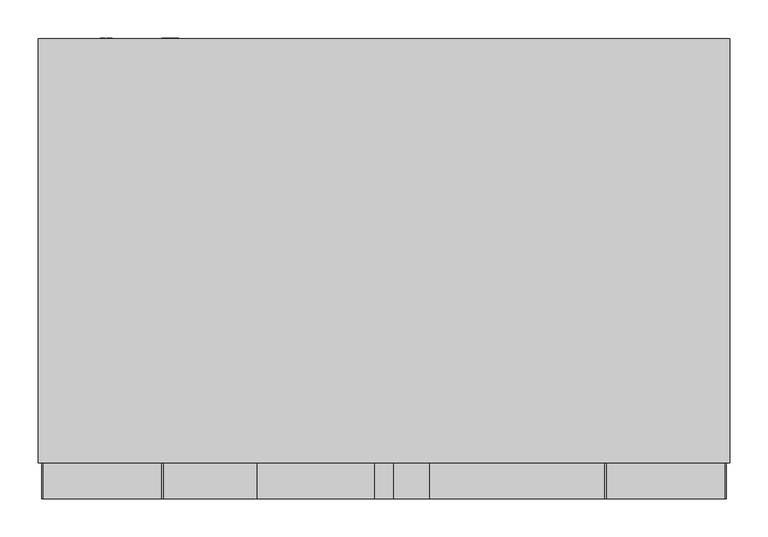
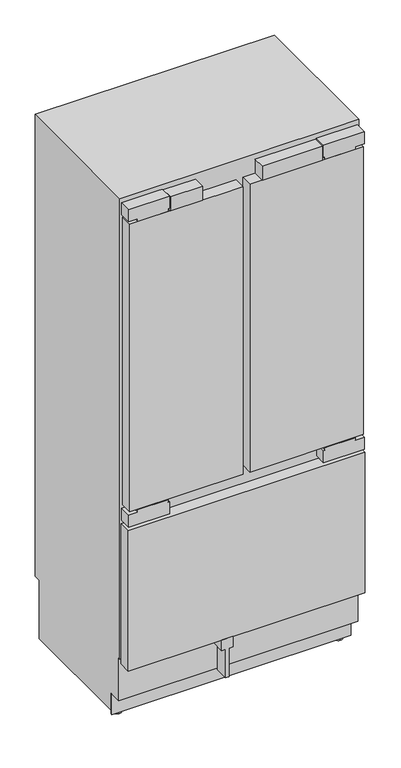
"""IFC4 building model written with IfcOpenShell, lengths in millimetres: proxy geometry, 11288020_OER_KF2981Vi : 38298101_OER_11288020_KF2981Vi."""

import ifcopenshell
import ifcopenshell.guid

model = None  # the IFC model being written
_history = None  # IfcOwnerHistory: only IFC2X3 demands one
_inside = {}  # id of a spatial element -> (the spatial element, [elements in it])
_under = {}  # id of a project, library or spatial element -> (it, [spatial elements below it])
_declared = {}  # id of a project -> (the project, [libraries it declares])
_typed = {}  # id of a type object -> (the type object, [elements of that type])
_made_of = {}  # id of a material, layer set ... -> (it, [elements and type objects made of it])


def new_model(schema):
    """Start an empty IFC model of exactly this schema.

    Asked for "IFC4X3", IfcOpenShell would pick the latest addendum, in which some entities
    have other attributes; the version numbers below select the first issue.
    IFC2X3 requires an IfcOwnerHistory on every rooted entity: one is made here for all.
    """
    global model, _history
    if schema == "IFC4X3":
        model = ifcopenshell.file(schema_version=(4, 3, 0, 0))
    else:
        model = ifcopenshell.file(schema=schema)
    _inside.clear()
    _under.clear()
    _declared.clear()
    _typed.clear()
    _made_of.clear()
    _history = None
    if model.schema == "IFC2X3":
        org = make("IfcOrganization", Name="unknown")
        user = make(
            "IfcPersonAndOrganization",
            ThePerson=make("IfcPerson", FamilyName="unknown"),
            TheOrganization=org,
        )
        app = make(
            "IfcApplication",
            ApplicationDeveloper=org,
            Version="unknown",
            ApplicationFullName="unknown",
            ApplicationIdentifier="unknown",
        )
        _history = make(
            "IfcOwnerHistory",
            OwningUser=user,
            OwningApplication=app,
            ChangeAction="ADDED",
            CreationDate=0,
        )
    return model


def make(cls, **values):
    """One entity of the class cls with the attributes given. An attribute that is None is left unset."""
    return model.create_entity(
        cls, **{name: value for name, value in values.items() if value is not None}
    )


def rooted(cls, **values):
    """An entity with a GlobalId (a new one), such as an element, a storey or a relation."""
    return make(cls, GlobalId=ifcopenshell.guid.new(), OwnerHistory=_history, **values)


def si_unit(unit_type, name, prefix=None):
    """IfcSIUnit, for example si_unit("LENGTHUNIT", "METRE", prefix="MILLI")."""
    return make("IfcSIUnit", UnitType=unit_type, Prefix=prefix, Name=name)


def assignment(units):
    """IfcUnitAssignment: the units of a project."""
    return None if units is None else make("IfcUnitAssignment", Units=units)


def point(xyz):
    """IfcCartesianPoint."""
    return None if xyz is None else make("IfcCartesianPoint", Coordinates=xyz)


def direction(xyz):
    """IfcDirection."""
    return None if xyz is None else make("IfcDirection", DirectionRatios=xyz)


def frame(location, z_axis=None, x_axis=None):
    """IfcAxis2Placement3D, a coordinate frame: its origin and axes. An axis left out is left unset."""
    return make(
        "IfcAxis2Placement3D",
        Location=point(location),
        Axis=direction(z_axis),
        RefDirection=direction(x_axis),
    )


def frame_2d(location, x_axis=None):
    """IfcAxis2Placement2D, a coordinate frame in the plane: its origin and x axis."""
    return make(
        "IfcAxis2Placement2D", Location=point(location), RefDirection=direction(x_axis)
    )


def origin():
    """The frame at (0, 0, 0) with its axes left unset."""
    return frame((0.0, 0.0, 0.0))


def place(relative_to, where):
    """IfcLocalPlacement: puts the frame where relative to a parent placement (None: the world)."""
    return make(
        "IfcLocalPlacement", PlacementRelTo=relative_to, RelativePlacement=where
    )


def context(
    kind, dimensions, precision=None, world=None, true_north=None, identifier=None
):
    """IfcGeometricRepresentationContext, for example the 3D "Model" context."""
    return make(
        "IfcGeometricRepresentationContext",
        ContextIdentifier=identifier,
        ContextType=kind,
        CoordinateSpaceDimension=dimensions,
        Precision=precision,
        WorldCoordinateSystem=world,
        TrueNorth=true_north,
    )


def project(units=None, contexts=None):
    """IfcProject with its units and contexts."""
    return rooted(
        "IfcProject",
        Name="project",
        RepresentationContexts=contexts,
        UnitsInContext=assignment(units),
    )


def spatial(cls, under=None, at=None, **own):
    """A site, building, storey or space (cls), placed at a placement, below another one or the project."""
    s = rooted(cls, ObjectPlacement=at, **own)
    if under is not None:
        _under.setdefault(under.id(), (under, []))[1].append(s)
    return s


def polyline(points):
    """IfcPolyline through the points."""
    return make("IfcPolyline", Points=[point(p) for p in points])


def circle_curve(where, radius):
    """IfcCircle in the frame where."""
    return make("IfcCircle", Position=where, Radius=radius)


def trimmed(basis, trim1, trim2, sense, master):
    """IfcTrimmedCurve: the piece of a basis curve between two trims."""
    return make(
        "IfcTrimmedCurve",
        BasisCurve=basis,
        Trim1=trim1,
        Trim2=trim2,
        SenseAgreement=sense,
        MasterRepresentation=master,
    )


def segment(curve, same_sense, transition):
    """IfcCompositeCurveSegment."""
    return make(
        "IfcCompositeCurveSegment",
        Transition=transition,
        SameSense=same_sense,
        ParentCurve=curve,
    )


def composite_curve(segments, self_intersect=None):
    """IfcCompositeCurve: segments joined end to end."""
    return make("IfcCompositeCurve", Segments=segments, SelfIntersect=self_intersect)


def outline(outer, holes=None, kind="AREA"):
    """IfcArbitraryClosedProfileDef: a profile drawn as a closed curve; with holes, ...WithVoids."""
    if holes is None:
        return make("IfcArbitraryClosedProfileDef", ProfileType=kind, OuterCurve=outer)
    return make(
        "IfcArbitraryProfileDefWithVoids",
        ProfileType=kind,
        OuterCurve=outer,
        InnerCurves=holes,
    )


def extrude(swept, where, along, depth):
    """IfcExtrudedAreaSolid: the profile swept, set in the frame where, extruded along a direction by depth."""
    return make(
        "IfcExtrudedAreaSolid",
        SweptArea=swept,
        Position=where,
        ExtrudedDirection=direction(along),
        Depth=depth,
    )


def shape(context_of_items, identifier, shape_type, items):
    """IfcShapeRepresentation: the items that make up one representation, for example the "Body"."""
    return make(
        "IfcShapeRepresentation",
        ContextOfItems=context_of_items,
        RepresentationIdentifier=identifier,
        RepresentationType=shape_type,
        Items=items,
    )


def source(mapping_origin, context_of_items, identifier, shape_type, items):
    """IfcRepresentationMap: a shape defined once, which mapped items show again and again."""
    return make(
        "IfcRepresentationMap",
        MappingOrigin=mapping_origin,
        MappedRepresentation=shape(context_of_items, identifier, shape_type, items),
    )


def transform(
    local_origin,
    x_axis=None,
    y_axis=None,
    z_axis=None,
    scale=None,
    scale2=None,
    scale3=None,
    uniform=True,
):
    """IfcCartesianTransformationOperator3D, or its non-uniform kind. x_axis, y_axis, z_axis: its Axis1, 2, 3."""
    if uniform:
        return make(
            "IfcCartesianTransformationOperator3D",
            Axis1=direction(x_axis),
            Axis2=direction(y_axis),
            LocalOrigin=point(local_origin),
            Scale=scale,
            Axis3=direction(z_axis),
        )
    return make(
        "IfcCartesianTransformationOperator3DnonUniform",
        Axis1=direction(x_axis),
        Axis2=direction(y_axis),
        LocalOrigin=point(local_origin),
        Scale=scale,
        Axis3=direction(z_axis),
        Scale2=scale2,
        Scale3=scale3,
    )


def mapped(mapping_source, mapping_target):
    """IfcMappedItem: shows the shape of a source again, moved by a transform."""
    return make(
        "IfcMappedItem", MappingSource=mapping_source, MappingTarget=mapping_target
    )


def made_of(thing, what):
    """Note that an element or type object is made of a material, layer set ...; save() writes the relation."""
    if what is not None:
        _made_of.setdefault(what.id(), (what, []))[1].append(thing)
    return thing


def element(
    cls,
    number,
    at=None,
    inside=None,
    cuts=None,
    type_object=None,
    material=None,
    context=None,
    identifier="Body",
    shape_type=None,
    held_by="IfcProductDefinitionShape",
    body=None,
    shapes=None,
    **own,
):
    """One element of the class cls, such as IfcWall. Its Tag is "e" and its number.

    at: its placement. inside: the storey or other place that contains it. cuts: it is an
    opening in that element (IfcRelVoidsElement). A single representation is given by context,
    identifier, shape_type and body (its items); several are given by shapes. held_by: the class
    of the entity that holds the representations. save() writes the other relations.
    """
    e = rooted(cls, Tag="e%d" % number, ObjectPlacement=at, **own)
    if body is not None:
        shapes = [shape(context, identifier, shape_type, body)]
    if shapes is not None:
        e.Representation = make(held_by, Representations=shapes)
    if inside is not None:
        _inside.setdefault(inside.id(), (inside, []))[1].append(e)
    if cuts is not None:
        rooted(
            "IfcRelVoidsElement", RelatingBuildingElement=cuts, RelatedOpeningElement=e
        )
    if type_object is not None:
        _typed.setdefault(type_object.id(), (type_object, []))[1].append(e)
    return made_of(e, material)


def aggregate(whole, parts):
    """IfcRelAggregates: a whole, such as a stair, and the parts it consists of."""
    return rooted("IfcRelAggregates", RelatingObject=whole, RelatedObjects=parts)


def save(model, path):
    """Write the relations noted so far, then the file.

    IfcRelAggregates (storeys below a building ...), IfcRelContainedInSpatialStructure (elements
    in a storey), IfcRelDefinesByType, IfcRelAssociatesMaterial and IfcRelDeclares: one each for
    every whole, place, type object, material and project.
    """
    for whole, parts in _under.values():
        aggregate(whole, parts)
    for where, things in _inside.values():
        rooted(
            "IfcRelContainedInSpatialStructure",
            RelatedElements=things,
            RelatingStructure=where,
        )
    for kind, things in _typed.values():
        rooted("IfcRelDefinesByType", RelatedObjects=things, RelatingType=kind)
    for what, things in _made_of.values():
        rooted("IfcRelAssociatesMaterial", RelatedObjects=things, RelatingMaterial=what)
    for by, libraries in _declared.values():
        rooted("IfcRelDeclares", RelatingContext=by, RelatedDefinitions=libraries)
    model.write(path)


def plane_surface(at):
    """IfcPlane: the flat surface through the origin of the frame at, square to its z axis."""
    return make("IfcPlane", Position=at)


def cylinder_surface(at, radius):
    """IfcCylindricalSurface: all points at the distance radius from the z axis of the frame at."""
    return make("IfcCylindricalSurface", Position=at, Radius=radius)


def advanced_brep(points, edges, surfaces, faces):
    """IfcAdvancedBrep: a solid bounded by faces that lie on surfaces and meet in shared edges.

    An edge is (start, end): straight between two places in points (the first is 0);
    or (start, end, curve); or (start, end, curve, False) where it runs against its curve.
    A face is (place in surfaces, loops), or (place, loops, False) where it looks against
    its surface's normal. A loop lists edges by number (the first is 1), with a minus sign
    where the edge is run from its end to its start. The first loop is the outer one.
    """
    corners = [point(p) for p in points]
    vertices = [make("IfcVertexPoint", VertexGeometry=c) for c in corners]
    made = []
    for start, end, *more in edges:
        made.append(
            make(
                "IfcEdgeCurve",
                EdgeStart=vertices[start],
                EdgeEnd=vertices[end],
                EdgeGeometry=more[0] if more else make("IfcPolyline", Points=[corners[start], corners[end]]),
                SameSense=more[1] if len(more) > 1 else True,
            )
        )
    hull = []
    for where, loops, *sense in faces:
        bounds = []
        for j, loop in enumerate(loops):
            ring = [make("IfcOrientedEdge", EdgeElement=made[abs(k) - 1], Orientation=k > 0) for k in loop]
            bounds.append(
                make(
                    "IfcFaceOuterBound" if j == 0 else "IfcFaceBound",
                    Bound=make("IfcEdgeLoop", EdgeList=ring),
                    Orientation=True,
                )
            )
        hull.append(make("IfcAdvancedFace", Bounds=bounds, FaceSurface=surfaces[where], SameSense=sense[0] if sense else True))
    return make("IfcAdvancedBrep", Outer=make("IfcClosedShell", CfsFaces=hull))


def specialty_equipment_7bc0b81a(model_context):
    return source(origin(), model_context, "Body", "SolidModel", [
        extrude(outline(polyline([(60.0, 47.0), (289.0, 47.0), (289.0, 0.0), (60.0, 0.0), (60.0, 47.0)])), frame((0.0, 0.0, 2036.0), z_axis=(0.0, 0.0, 1.0), x_axis=(1.0, 0.0, 0.0)), (0.0, 0.0, 1.0), 56.0),
        extrude(outline(polyline([(-289.0, 47.0), (-167.0, 47.0), (-167.0, 0.0), (-289.0, 0.0), (-289.0, 47.0)])), frame((0.0, 0.0, 2036.0), z_axis=(0.0, 0.0, 1.0), x_axis=(1.0, 0.0, 0.0)), (0.0, 0.0, 1.0), 56.0),
        extrude(outline(polyline([(247.0, -94.0), (205.0, -94.0), (205.0, -79.5), (90.0, -79.5), (90.0, -66.5), (205.0, -66.5), (205.0, -52.0), (247.0, -52.0), (247.0, -94.0)])), frame((0.0, 0.0, 0.0), z_axis=(0.0, 1.0, 0.0), x_axis=(0.0, 0.0, 1.0)), (0.0, 0.0, 1.0), 54.0),
        extrude(outline(polyline([(-51.5, 90.0), (51.5, 90.0), (51.5, 47.0), (-51.5, 47.0), (-51.5, 90.0)])), frame((0.0, 0.0, 921.0), z_axis=(0.0, 0.0, 1.0), x_axis=(1.0, 0.0, 0.0)), (0.0, 0.0, 1.0), 1069.0),
        extrude(outline(polyline([(-443.0, 47.0), (-13.0, 47.0), (-13.0, 0.0), (-443.0, 0.0), (-443.0, 47.0)])), frame((0.0, 0.0, 883.0), z_axis=(0.0, 0.0, 1.0), x_axis=(1.0, 0.0, 0.0)), (0.0, 0.0, 1.0), 1153.0),
        extrude(outline(polyline([(13.0, 47.0), (443.0, 47.0), (443.0, 0.0), (13.0, 0.0), (13.0, 47.0)])), frame((0.0, 0.0, 883.0), z_axis=(0.0, 0.0, 1.0), x_axis=(1.0, 0.0, 0.0)), (0.0, 0.0, 1.0), 1153.0),
        extrude(outline(polyline([(-449.5, 47.0), (449.5, 47.0), (449.5, 0.0), (-449.5, 0.0), (-449.5, 47.0)])), frame((0.0, 0.0, 247.0), z_axis=(0.0, 0.0, 1.0), x_axis=(1.0, 0.0, 0.0)), (0.0, 0.0, 1.0), 562.0),
        extrude(outline(polyline([(180.5, 1973.4), (217.625, 1914.0), (216.4457524, 1914.0), (179.3207524, 1973.4), (180.5, 1973.4)])), frame((-69.0, 0.0, 0.0), z_axis=(1.0, 0.0, 0.0), x_axis=(0.0, 1.0, 0.0)), (0.0, 0.0, 1.0), 138.0),
        extrude(outline(polyline([(544.0, 1998.0), (544.0, 1796.0), (474.0, 1796.0), (433.0, 1907.0), (222.0, 1907.0), (177.0, 1979.0), (129.0, 1998.0), (544.0, 1998.0)])), frame((-408.0, 0.0, 0.0), z_axis=(1.0, 0.0, 0.0), x_axis=(0.0, 1.0, 0.0)), (0.0, 0.0, 1.0), 816.0),
        extrude(outline(polyline([(-408.0, 544.0), (408.0, 544.0), (408.0, 519.0), (-408.0, 519.0), (-408.0, 544.0)])), frame((0.0, 0.0, 303.0), z_axis=(0.0, 0.0, 1.0), x_axis=(1.0, 0.0, 0.0)), (0.0, 0.0, 1.0), 467.0),
        extrude(outline(polyline([(-408.0, 544.0), (408.0, 544.0), (408.0, 47.0), (-408.0, 47.0), (-408.0, 544.0)])), frame((0.0, 0.0, 770.0), z_axis=(0.0, 0.0, 1.0), x_axis=(1.0, 0.0, 0.0)), (0.0, 0.0, 1.0), 144.0),
        extrude(outline(polyline([(46.0510837, -279.101717), (37.4134902, -281.1745179), (46.0453554, -283.6868463), (46.0453554, -285.5601414), (37.4089549, -288.0799633), (46.0493903, -290.1581876), (46.0493903, -291.4649805), (36.0005458, -288.7156324), (36.0005458, -287.372208), (44.8261022, -284.6342221), (35.9987467, -282.0620509), (35.9987287, -280.5451466), (46.0510837, -277.800191), (46.0510837, -279.101717)])), frame((0.0, 604.0, 0.0), z_axis=(0.0, 1.0, 0.0), x_axis=(0.0, 0.0, 1.0)), (0.0, 0.0, 1.0), 1.0),
        extrude(outline(polyline([(46.0485238, -270.7401503), (41.1363122, -270.7401503), (46.0468162, -275.884602), (46.0468162, -277.6328316), (41.9156889, -273.3260313), (36.000035, -277.8032231), (36.000035, -276.2795519), (41.0742849, -272.4391666), (39.4525334, -270.7395503), (35.9999292, -270.7395503), (35.9999292, -269.4795491), (46.0485238, -269.4795491), (46.0485238, -270.7401503)])), frame((0.0, 604.0, 0.0), z_axis=(0.0, 1.0, 0.0), x_axis=(0.0, 0.0, 1.0)), (0.0, 0.0, 1.0), 1.0),
        extrude(outline(composite_curve([segment(trimmed(circle_curve(frame_2d((41.0, -280.0)), 7.5), [point((33.5, -280.0))], [point((48.5, -280.0))], False, "CARTESIAN"), True, "CONTINUOUS"), segment(trimmed(circle_curve(frame_2d((41.0, -280.0)), 7.5), [point((48.5, -280.0))], [point((33.5, -280.0))], False, "CARTESIAN"), True, "CONTINUOUS")], self_intersect=False)), frame((0.0, 577.0, 0.0), z_axis=(0.0, 1.0, 0.0), x_axis=(0.0, 0.0, 1.0)), (0.0, 0.0, 1.0), 27.0),
        extrude(outline(polyline([(2095.0, 447.5), (2095.0, 292.5), (2047.0, 292.5), (2047.0, 298.5), (2036.5, 298.5), (2036.5, 413.5), (2047.0, 413.5), (2047.0, 447.5), (2095.0, 447.5)])), frame((0.0, 0.0, 0.0), z_axis=(0.0, 1.0, 0.0), x_axis=(0.0, 0.0, 1.0)), (0.0, 0.0, 1.0), 47.0),
        extrude(outline(polyline([(2095.0, -447.5), (2047.0, -447.5), (2047.0, -413.5), (2036.5, -413.5), (2036.5, -298.5), (2047.0, -298.5), (2047.0, -292.5), (2095.0, -292.5), (2095.0, -447.5)])), frame((0.0, 0.0, 0.0), z_axis=(0.0, 1.0, 0.0), x_axis=(0.0, 0.0, 1.0)), (0.0, 0.0, 1.0), 47.0),
        extrude(outline(polyline([(871.0, -447.5), (823.0, -447.5), (823.0, -292.5), (871.0, -292.5), (871.0, -298.5), (881.0, -298.5), (881.0, -413.5), (871.0, -413.5), (871.0, -447.5)])), frame((0.0, 0.0, 0.0), z_axis=(0.0, 1.0, 0.0), x_axis=(0.0, 0.0, 1.0)), (0.0, 0.0, 1.0), 47.0),
        extrude(outline(polyline([(871.0, 292.5), (823.0, 292.5), (823.0, 447.5), (871.0, 447.5), (871.0, 413.5), (881.0, 413.5), (881.0, 298.5), (871.0, 298.5), (871.0, 292.5)])), frame((0.0, 0.0, 0.0), z_axis=(0.0, 1.0, 0.0), x_axis=(0.0, 0.0, 1.0)), (0.0, 0.0, 1.0), 47.0),
        extrude(outline(polyline([(99.0373308, -363.7645771), (97.7615342, -363.7645771), (97.7615342, -357.8195541), (94.7968516, -357.8195541), (94.7968516, -363.469579), (93.5246295, -363.469579), (93.5246295, -357.8415693), (90.2570046, -357.8415693), (90.2570046, -363.9619689), (88.9546219, -363.9619689), (88.9546219, -356.5443524), (99.0373308, -356.5443524), (99.0373308, -363.7645771)])), frame((0.0, 604.0, 0.0), z_axis=(0.0, 1.0, 0.0), x_axis=(0.0, 0.0, 1.0)), (0.0, 0.0, 1.0), 1.0),
        extrude(outline(polyline([(99.0458, -367.0619704), (90.2663944, -367.0619704), (90.2663944, -372.1145879), (89.0134802, -372.1145879), (89.0134802, -365.8423809), (99.0458, -365.8423809), (99.0458, -367.0619704)])), frame((0.0, 604.0, 0.0), z_axis=(0.0, 1.0, 0.0), x_axis=(0.0, 0.0, 1.0)), (0.0, 0.0, 1.0), 1.0),
        extrude(outline(composite_curve([segment(trimmed(circle_curve(frame_2d((94.0, -364.0)), 7.5), [point((86.5, -364.0))], [point((101.5, -364.0))], False, "CARTESIAN"), True, "CONTINUOUS"), segment(trimmed(circle_curve(frame_2d((94.0, -364.0)), 7.5), [point((101.5, -364.0))], [point((86.5, -364.0))], False, "CARTESIAN"), True, "CONTINUOUS")], self_intersect=False)), frame((0.0, 577.0, 0.0), z_axis=(0.0, 1.0, 0.0), x_axis=(0.0, 0.0, 1.0)), (0.0, 0.0, 1.0), 27.0),
        extrude(outline(polyline([(-454.0, 104.0), (454.0, 104.0), (454.0, 99.0), (-454.0, 99.0), (-454.0, 104.0)])), frame((0.0, 0.0, 14.0), z_axis=(0.0, 0.0, 1.0), x_axis=(1.0, 0.0, 0.0)), (0.0, 0.0, 1.0), 83.0),
        advanced_brep(
        [(-420.0, 139.0, 0.0), (-420.0, 109.0, 0.0), (-420.0, 139.0, 7.0), (-420.0, 109.0, 7.0), (-420.0, 128.7, 7.0), (-420.0, 119.3, 7.0), (-420.0, 128.7, 28.0), (-420.0, 119.3, 28.0)],
        [
            (0, 1, circle_curve(frame((-420.0, 124.0, 0.0), z_axis=(0.0, 0.0, -1.0), x_axis=(1.0, 0.0, 0.0)), 15.0)),
            (1, 0, circle_curve(frame((-420.0, 124.0, 0.0), z_axis=(0.0, 0.0, -1.0), x_axis=(1.0, 0.0, 0.0)), 15.0)),
            (2, 3, circle_curve(frame((-420.0, 124.0, 7.0), z_axis=(0.0, 0.0, 1.0), x_axis=(1.0, 0.0, 0.0)), 15.0)),
            (3, 2, circle_curve(frame((-420.0, 124.0, 7.0), z_axis=(0.0, 0.0, 1.0), x_axis=(1.0, 0.0, 0.0)), 15.0)),
            (4, 5, circle_curve(frame((-420.0, 124.0, 7.0), z_axis=(0.0, 0.0, -1.0), x_axis=(0.0, -1.0, 0.0)), 4.7)),
            (5, 4, circle_curve(frame((-420.0, 124.0, 7.0), z_axis=(0.0, 0.0, -1.0), x_axis=(0.0, -1.0, 0.0)), 4.7)),
            (0, 2),
            (3, 1),
            (6, 7, circle_curve(frame((-420.0, 124.0, 28.0), z_axis=(0.0, 0.0, 1.0), x_axis=(0.0, -1.0, 0.0)), 4.7)),
            (7, 6, circle_curve(frame((-420.0, 124.0, 28.0), z_axis=(0.0, 0.0, 1.0), x_axis=(0.0, -1.0, 0.0)), 4.7)),
            (7, 5),
            (4, 6),
        ],
        [
            plane_surface(frame((-405.0, 124.0, 0.0), z_axis=(0.0, 0.0, -1.0), x_axis=(0.0, -1.0, 0.0))),
            plane_surface(frame((-405.0, 124.0, 7.0), z_axis=(0.0, 0.0, 1.0), x_axis=(0.0, 1.0, 0.0))),
            cylinder_surface(frame((-420.0, 124.0, 7.0), z_axis=(0.0, 0.0, -1.0), x_axis=(1.0, 0.0, 0.0)), 15.0),
            plane_surface(frame((-420.0, 119.3, 28.0), z_axis=(0.0, 0.0, 1.0), x_axis=(1.0, 0.0, 0.0))),
            cylinder_surface(frame((-420.0, 124.0, 28.0), z_axis=(0.0, 0.0, -1.0), x_axis=(0.0, -1.0, 0.0)), 4.7),
        ],
        [
            (0, [[1, 2]]),
            (1, [[3, 4], [5, 6]]),
            (2, [[-1, 7, -4, 8]]),
            (2, [[-2, -8, -3, -7]]),
            (3, [[9, 10]]),
            (4, [[-10, 11, -5, 12]]),
            (4, [[-9, -12, -6, -11]]),
        ],
    ),
        advanced_brep(
        [(420.0, 139.0, 0.0), (420.0, 109.0, 0.0), (420.0, 139.0, 7.0), (420.0, 109.0, 7.0), (420.0, 128.7, 7.0), (420.0, 119.3, 7.0), (420.0, 128.7, 28.0), (420.0, 119.3, 28.0)],
        [
            (0, 1, circle_curve(frame((420.0, 124.0, 0.0), z_axis=(0.0, 0.0, -1.0), x_axis=(1.0, 0.0, 0.0)), 15.0)),
            (1, 0, circle_curve(frame((420.0, 124.0, 0.0), z_axis=(0.0, 0.0, -1.0), x_axis=(1.0, 0.0, 0.0)), 15.0)),
            (2, 3, circle_curve(frame((420.0, 124.0, 7.0), z_axis=(0.0, 0.0, 1.0), x_axis=(1.0, 0.0, 0.0)), 15.0)),
            (3, 2, circle_curve(frame((420.0, 124.0, 7.0), z_axis=(0.0, 0.0, 1.0), x_axis=(1.0, 0.0, 0.0)), 15.0)),
            (4, 5, circle_curve(frame((420.0, 124.0, 7.0), z_axis=(0.0, 0.0, -1.0), x_axis=(0.0, -1.0, 0.0)), 4.7)),
            (5, 4, circle_curve(frame((420.0, 124.0, 7.0), z_axis=(0.0, 0.0, -1.0), x_axis=(0.0, -1.0, 0.0)), 4.7)),
            (0, 2),
            (3, 1),
            (6, 7, circle_curve(frame((420.0, 124.0, 28.0), z_axis=(0.0, 0.0, 1.0), x_axis=(0.0, -1.0, 0.0)), 4.7)),
            (7, 6, circle_curve(frame((420.0, 124.0, 28.0), z_axis=(0.0, 0.0, 1.0), x_axis=(0.0, -1.0, 0.0)), 4.7)),
            (7, 5),
            (4, 6),
        ],
        [
            plane_surface(frame((-405.0, 124.0, 0.0), z_axis=(0.0, 0.0, -1.0), x_axis=(0.0, -1.0, 0.0))),
            plane_surface(frame((-405.0, 124.0, 7.0), z_axis=(0.0, 0.0, 1.0), x_axis=(0.0, 1.0, 0.0))),
            cylinder_surface(frame((420.0, 124.0, 7.0), z_axis=(0.0, 0.0, -1.0), x_axis=(1.0, 0.0, 0.0)), 15.0),
            plane_surface(frame((-420.0, 119.3, 28.0), z_axis=(0.0, 0.0, 1.0), x_axis=(1.0, 0.0, 0.0))),
            cylinder_surface(frame((420.0, 124.0, 28.0), z_axis=(0.0, 0.0, -1.0), x_axis=(0.0, -1.0, 0.0)), 4.7),
        ],
        [
            (0, [[1, 2]]),
            (1, [[3, 4], [5, 6]]),
            (2, [[-1, 7, -4, 8]]),
            (2, [[-2, -8, -3, -7]]),
            (3, [[9, 10]]),
            (4, [[-10, 11, -5, 12]]),
            (4, [[-9, -12, -6, -11]]),
        ],
    ),
        advanced_brep(
        [(454.0, 47.0, 2114.0), (454.0, 47.0, 267.0), (454.0, 54.0, 267.0), (454.0, 54.0, 97.0), (454.0, 104.0, 97.0), (454.0, 104.0, 28.0), (454.0, 577.0, 28.0), (454.0, 577.0, 263.0), (454.0, 604.0, 263.0), (454.0, 604.0, 2114.0), (-454.0, 47.0, 2114.0), (-454.0, 604.0, 2114.0), (-454.0, 604.0, 263.0), (-454.0, 577.0, 263.0), (-454.0, 577.0, 28.0), (-454.0, 104.0, 28.0), (-454.0, 104.0, 97.0), (-454.0, 54.0, 97.0), (-454.0, 54.0, 267.0), (-454.0, 47.0, 267.0), (394.0, 577.0, 28.0), (394.0, 577.0, 14.0), (-394.0, 577.0, 14.0), (-394.0, 577.0, 28.0), (394.0, 104.0, 14.0), (-394.0, 104.0, 14.0), (-394.0, 104.0, 28.0), (394.0, 104.0, 28.0), (408.0, 47.0, 1998.0), (408.0, 47.0, 303.0), (-408.0, 47.0, 303.0), (-408.0, 47.0, 1998.0), (408.0, 544.0, 1998.0), (-408.0, 544.0, 1998.0), (-408.0, 544.0, 303.0), (408.0, 544.0, 303.0), (-412.5, 202.8193473, 28.0), (-431.5, 202.8193473, 28.0), (-431.5, 153.1806527, 28.0), (-412.5, 153.1806527, 28.0), (-432.0, 525.8193473, 28.0), (-432.0, 476.1806527, 28.0), (-416.0, 476.1806527, 28.0), (-416.0, 525.8193473, 28.0), (431.5, 153.1806527, 28.0), (431.5, 202.8193473, 28.0), (412.5, 202.8193473, 28.0), (412.5, 153.1806527, 28.0), (416.0, 525.8193473, 28.0), (416.0, 476.1806527, 28.0), (432.0, 476.1806527, 28.0), (432.0, 525.8193473, 28.0), (-412.5, 203.0, 25.0), (-412.5, 153.0, 25.0), (-431.5, 153.0, 25.0), (-431.5, 203.0, 25.0), (-412.5, 178.0, 25.0), (-431.5, 178.0, 25.0), (431.5, 178.0, 25.0), (431.5, 153.0, 25.0), (431.5, 203.0, 25.0), (412.5, 203.0, 25.0), (412.5, 153.0, 25.0), (412.5, 178.0, 25.0), (-432.0, 526.0, 25.0), (-432.0, 476.0, 25.0), (-432.0, 501.0, 25.0), (-416.0, 526.0, 25.0), (-416.0, 476.0, 25.0), (-416.0, 501.0, 25.0), (416.0, 526.0, 25.0), (416.0, 476.0, 25.0), (416.0, 501.0, 25.0), (432.0, 526.0, 25.0), (432.0, 476.0, 25.0), (432.0, 501.0, 25.0)],
        [
            (0, 1),
            (1, 2),
            (2, 3),
            (3, 4),
            (4, 5),
            (5, 6),
            (6, 7),
            (7, 8),
            (8, 9),
            (9, 0),
            (10, 11),
            (11, 12),
            (12, 13),
            (13, 14),
            (14, 15),
            (15, 16),
            (16, 17),
            (17, 18),
            (18, 19),
            (19, 10),
            (9, 11),
            (10, 0),
            (8, 12),
            (7, 13),
            (6, 20),
            (20, 21),
            (21, 22),
            (22, 23),
            (23, 14),
            (21, 24),
            (24, 25),
            (25, 22),
            (4, 16),
            (15, 26),
            (26, 25),
            (24, 27),
            (27, 5),
            (3, 17),
            (2, 18),
            (1, 19),
            (28, 29),
            (29, 30),
            (30, 31),
            (31, 28),
            (32, 33),
            (33, 34),
            (34, 35),
            (35, 32),
            (35, 29),
            (28, 32),
            (34, 30),
            (33, 31),
            (23, 26),
            (36, 37),
            (37, 38),
            (38, 39),
            (39, 36),
            (40, 41),
            (41, 42),
            (42, 43),
            (43, 40),
            (27, 20),
            (44, 45),
            (45, 46),
            (46, 47),
            (47, 44),
            (48, 49),
            (49, 50),
            (50, 51),
            (51, 48),
            (52, 53, circle_curve(frame((-412.5, 178.0, 25.0), z_axis=(-1.0, 0.0, 0.0), x_axis=(0.0, -1.0, 0.0)), 25.0)),
            (53, 54),
            (54, 55, circle_curve(frame((-431.5, 178.0, 25.0), z_axis=(1.0, 0.0, 0.0), x_axis=(0.0, -1.0, 0.0)), 25.0)),
            (55, 52),
            (53, 39, circle_curve(frame((-412.5, 178.0, 25.0), z_axis=(-1.0, 0.0, 0.0), x_axis=(0.0, -1.0, 0.0)), 25.0)),
            (38, 54, circle_curve(frame((-431.5, 178.0, 25.0), z_axis=(1.0, 0.0, 0.0), x_axis=(0.0, -1.0, 0.0)), 25.0)),
            (55, 37, circle_curve(frame((-431.5, 178.0, 25.0), z_axis=(1.0, 0.0, 0.0), x_axis=(0.0, -1.0, 0.0)), 25.0)),
            (36, 52, circle_curve(frame((-412.5, 178.0, 25.0), z_axis=(-1.0, 0.0, 0.0), x_axis=(0.0, -1.0, 0.0)), 25.0)),
            (52, 56),
            (56, 53),
            (54, 57),
            (57, 55),
            (58, 59),
            (59, 60, circle_curve(frame((431.5, 178.0, 25.0), z_axis=(1.0, 0.0, 0.0), x_axis=(0.0, -1.0, 0.0)), 25.0)),
            (60, 58),
            (60, 45, circle_curve(frame((431.5, 178.0, 25.0), z_axis=(1.0, 0.0, 0.0), x_axis=(0.0, -1.0, 0.0)), 25.0)),
            (44, 59, circle_curve(frame((431.5, 178.0, 25.0), z_axis=(1.0, 0.0, 0.0), x_axis=(0.0, -1.0, 0.0)), 25.0)),
            (61, 62, circle_curve(frame((412.5, 178.0, 25.0), z_axis=(-1.0, 0.0, 0.0), x_axis=(0.0, -1.0, 0.0)), 25.0)),
            (62, 63),
            (63, 61),
            (62, 47, circle_curve(frame((412.5, 178.0, 25.0), z_axis=(-1.0, 0.0, 0.0), x_axis=(0.0, -1.0, 0.0)), 25.0)),
            (46, 61, circle_curve(frame((412.5, 178.0, 25.0), z_axis=(-1.0, 0.0, 0.0), x_axis=(0.0, -1.0, 0.0)), 25.0)),
            (64, 65, circle_curve(frame((-432.0, 501.0, 25.0), z_axis=(-1.0, 0.0, 0.0), x_axis=(0.0, -1.0, 0.0)), 25.0)),
            (65, 66),
            (66, 64),
            (65, 41, circle_curve(frame((-432.0, 501.0, 25.0), z_axis=(-1.0, 0.0, 0.0), x_axis=(0.0, -1.0, 0.0)), 25.0)),
            (40, 64, circle_curve(frame((-432.0, 501.0, 25.0), z_axis=(-1.0, 0.0, 0.0), x_axis=(0.0, -1.0, 0.0)), 25.0)),
            (64, 67),
            (67, 68, circle_curve(frame((-416.0, 501.0, 25.0), z_axis=(-1.0, 0.0, 0.0), x_axis=(0.0, -1.0, 0.0)), 25.0)),
            (68, 65),
            (43, 67, circle_curve(frame((-416.0, 501.0, 25.0), z_axis=(-1.0, 0.0, 0.0), x_axis=(0.0, -1.0, 0.0)), 25.0)),
            (68, 42, circle_curve(frame((-416.0, 501.0, 25.0), z_axis=(-1.0, 0.0, 0.0), x_axis=(0.0, -1.0, 0.0)), 25.0)),
            (67, 69),
            (69, 68),
            (70, 71, circle_curve(frame((416.0, 501.0, 25.0), z_axis=(-1.0, 0.0, 0.0), x_axis=(0.0, -1.0, 0.0)), 25.0)),
            (71, 72),
            (72, 70),
            (71, 49, circle_curve(frame((416.0, 501.0, 25.0), z_axis=(-1.0, 0.0, 0.0), x_axis=(0.0, -1.0, 0.0)), 25.0)),
            (48, 70, circle_curve(frame((416.0, 501.0, 25.0), z_axis=(-1.0, 0.0, 0.0), x_axis=(0.0, -1.0, 0.0)), 25.0)),
            (70, 73),
            (73, 74, circle_curve(frame((432.0, 501.0, 25.0), z_axis=(-1.0, 0.0, 0.0), x_axis=(0.0, -1.0, 0.0)), 25.0)),
            (74, 71),
            (51, 73, circle_curve(frame((432.0, 501.0, 25.0), z_axis=(-1.0, 0.0, 0.0), x_axis=(0.0, -1.0, 0.0)), 25.0)),
            (74, 50, circle_curve(frame((432.0, 501.0, 25.0), z_axis=(-1.0, 0.0, 0.0), x_axis=(0.0, -1.0, 0.0)), 25.0)),
            (73, 75),
            (75, 74),
            (59, 62),
            (61, 60),
        ],
        [
            plane_surface(frame((454.0, 604.0, 2114.0), z_axis=(1.0, 0.0, 0.0), x_axis=(0.0, -1.0, 0.0))),
            plane_surface(frame((-454.0, 604.0, 2114.0), z_axis=(-1.0, 0.0, 0.0), x_axis=(0.0, 1.0, 0.0))),
            plane_surface(frame((-454.0, 47.0, 2114.0), z_axis=(0.0, 0.0, 1.0), x_axis=(1.0, 0.0, 0.0))),
            plane_surface(frame((-454.0, 604.0, 2114.0), z_axis=(0.0, 1.0, 0.0), x_axis=(1.0, 0.0, 0.0))),
            plane_surface(frame((-454.0, 604.0, 263.0), z_axis=(0.0, 0.0, -1.0), x_axis=(1.0, 0.0, 0.0))),
            plane_surface(frame((-454.0, 577.0, 263.0), z_axis=(0.0, 1.0, 0.0), x_axis=(1.0, 0.0, 0.0))),
            plane_surface(frame((-454.0, 577.0, 14.0), z_axis=(0.0, 0.0, -1.0), x_axis=(1.0, 0.0, 0.0))),
            plane_surface(frame((-454.0, 104.0, 14.0), z_axis=(0.0, -1.0, 0.0), x_axis=(1.0, 0.0, 0.0))),
            plane_surface(frame((-454.0, 104.0, 97.0), z_axis=(0.0, 0.0, -1.0), x_axis=(1.0, 0.0, 0.0))),
            plane_surface(frame((-454.0, 54.0, 97.0), z_axis=(0.0, -1.0, 0.0), x_axis=(1.0, 0.0, 0.0))),
            plane_surface(frame((-454.0, 54.0, 267.0), z_axis=(0.0, 0.0, -1.0), x_axis=(1.0, 0.0, 0.0))),
            plane_surface(frame((-454.0, 47.0, 267.0), z_axis=(0.0, -1.0, 0.0), x_axis=(1.0, 0.0, 0.0))),
            plane_surface(frame((408.0, 544.0, 1998.0), z_axis=(0.0, -1.0, 0.0), x_axis=(0.0, 0.0, -1.0))),
            plane_surface(frame((408.0, 544.0, 1998.0), z_axis=(-1.0, 0.0, 0.0), x_axis=(0.0, -1.0, 0.0))),
            plane_surface(frame((408.0, 544.0, 303.0), z_axis=(0.0, 0.0, 1.0), x_axis=(0.0, -1.0, 0.0))),
            plane_surface(frame((-408.0, 544.0, 303.0), z_axis=(1.0, 0.0, 0.0), x_axis=(0.0, -1.0, 0.0))),
            plane_surface(frame((-408.0, 544.0, 1998.0), z_axis=(0.0, 0.0, -1.0), x_axis=(0.0, -1.0, 0.0))),
            plane_surface(frame((-454.0, 604.0, 28.0), z_axis=(0.0, 0.0, -1.0), x_axis=(-1.0, 0.0, 0.0))),
            plane_surface(frame((-394.0, 104.0, 28.0), z_axis=(-1.0, 0.0, 0.0), x_axis=(0.0, 0.0, -1.0))),
            plane_surface(frame((394.0, 604.0, 28.0), z_axis=(1.0, 0.0, 0.0), x_axis=(0.0, 0.0, -1.0))),
            cylinder_surface(frame((-546.6988927, 178.0, 25.0), z_axis=(1.0, 0.0, 0.0), x_axis=(0.0, -1.0, 0.0)), 25.0),
            plane_surface(frame((-412.5, 178.0, 25.0), z_axis=(1.0, 0.0, 0.0), x_axis=(0.0, -1.0, 0.0))),
            plane_surface(frame((-431.5, 178.0, 25.0), z_axis=(-1.0, 0.0, 0.0), x_axis=(0.0, -1.0, 0.0))),
            plane_surface(frame((431.5, 178.0, 25.0), z_axis=(1.0, 0.0, 0.0), x_axis=(0.0, -1.0, 0.0))),
            plane_surface(frame((412.5, 178.0, 25.0), z_axis=(-1.0, 0.0, 0.0), x_axis=(0.0, -1.0, 0.0))),
            plane_surface(frame((-432.0, 501.0, 25.0), z_axis=(-1.0, 0.0, 0.0), x_axis=(0.0, -1.0, 0.0))),
            cylinder_surface(frame((-546.6988927, 501.0, 25.0), z_axis=(1.0, 0.0, 0.0), x_axis=(0.0, -1.0, 0.0)), 25.0),
            plane_surface(frame((-416.0, 501.0, 25.0), z_axis=(1.0, 0.0, 0.0), x_axis=(0.0, -1.0, 0.0))),
            plane_surface(frame((416.0, 501.0, 25.0), z_axis=(-1.0, 0.0, 0.0), x_axis=(0.0, -1.0, 0.0))),
            plane_surface(frame((432.0, 501.0, 25.0), z_axis=(1.0, 0.0, 0.0), x_axis=(0.0, -1.0, 0.0))),
        ],
        [
            (0, [[1, 2, 3, 4, 5, 6, 7, 8, 9, 10]]),
            (1, [[11, 12, 13, 14, 15, 16, 17, 18, 19, 20]]),
            (2, [[-10, 21, -11, 22]]),
            (3, [[-9, 23, -12, -21]]),
            (4, [[-8, 24, -13, -23]]),
            (5, [[-24, -7, 25, 26, 27, 28, 29, -14]]),
            (6, [[-27, 30, 31, 32]]),
            (7, [[33, -16, 34, 35, -31, 36, 37, -5]]),
            (8, [[-4, 38, -17, -33]]),
            (9, [[-3, 39, -18, -38]]),
            (10, [[-2, 40, -19, -39]]),
            (11, [[-1, -22, -20, -40], [41, 42, 43, 44]]),
            (12, [[45, 46, 47, 48]]),
            (13, [[-48, 49, -41, 50]]),
            (14, [[-47, 51, -42, -49]]),
            (15, [[-46, 52, -43, -51]]),
            (16, [[-45, -50, -44, -52]]),
            (17, [[53, -34, -15, -29], [54, 55, 56, 57], [58, 59, 60, 61]]),
            (17, [[62, -25, -6, -37], [63, 64, 65, 66], [67, 68, 69, 70]]),
            (18, [[-53, -28, -32, -35]]),
            (19, [[-62, -36, -30, -26]]),
            (20, [[71, 72, 73, 74]]),
            (20, [[-72, 75, -56, 76]]),
            (20, [[-74, 77, -54, 78]]),
            (21, [[-71, 79, 80]]),
            (21, [[-80, -79, -78, -57, -75]]),
            (22, [[-73, 81, 82]]),
            (22, [[-81, -76, -55, -77, -82]]),
            (23, [[83, 84, 85]]),
            (23, [[-83, -85, 86, -63, 87]]),
            (24, [[88, 89, 90]]),
            (24, [[-89, 91, -65, 92, -90]]),
            (25, [[93, 94, 95]]),
            (25, [[-94, 96, -58, 97, -95]]),
            (26, [[-93, 98, 99, 100]]),
            (26, [[-98, -97, -61, 101]]),
            (26, [[-100, 102, -59, -96]]),
            (27, [[-99, 103, 104]]),
            (27, [[-104, -103, -101, -60, -102]]),
            (28, [[105, 106, 107]]),
            (28, [[-106, 108, -67, 109, -107]]),
            (26, [[-105, 110, 111, 112]]),
            (26, [[-110, -109, -70, 113]]),
            (26, [[-112, 114, -68, -108]]),
            (29, [[-111, 115, 116]]),
            (29, [[-116, -115, -113, -69, -114]]),
            (20, [[-84, 117, -88, 118]]),
            (20, [[-117, -87, -66, -91]]),
            (20, [[-118, -92, -64, -86]]),
        ],
    ),
    ])


if __name__ == "__main__":
    model = new_model("IFC4")
    model_context = context("Model", 3, world=origin())
    ifc_project = project(units=[si_unit("LENGTHUNIT", "METRE", prefix="MILLI")], contexts=[model_context])
    site = spatial("IfcSite", under=ifc_project)
    building = spatial("IfcBuilding", under=site)
    placement = place(None, origin())
    specialty_equipment_shape = specialty_equipment_7bc0b81a(model_context)
    element("IfcBuildingElementProxy", 1, Name="11288020_OER_KF2981Vi : 38298101_OER_11288020_KF2981Vi", ObjectType="11288020_OER_KF2981Vi : 38298101_OER_11288020_KF2981Vi", at=placement, inside=building, context=model_context, shape_type="MappedRepresentation", body=[
        mapped(specialty_equipment_shape, transform((0.0, 0.0, 0.0), x_axis=(1.0, 0.0, 0.0), y_axis=(0.0, 1.0, 0.0), z_axis=(0.0, 0.0, 1.0))),
    ])
    save(model, "model.ifc")
